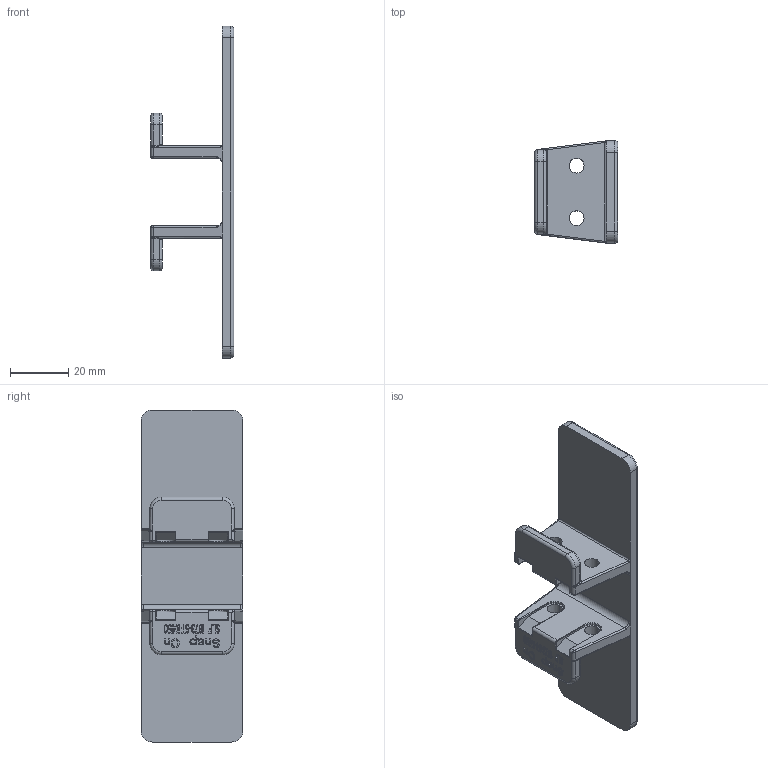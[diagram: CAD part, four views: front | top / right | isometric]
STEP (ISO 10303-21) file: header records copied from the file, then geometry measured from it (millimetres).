
FILE_DESCRIPTION((''),'2;1');
FILE_NAME('P1009','2015-12-16T',('bhe'),(''),'CREO PARAMETRIC BY PTC INC, 2015290','CREO PARAMETRIC BY PTC INC, 2015290','');
FILE_SCHEMA(('CONFIG_CONTROL_DESIGN'));
Length unit declared in the file: millimetre
Products named in the file (1): P1009
Bounding box: 28.78 x 35.1 x 114.25 mm (x, y, z)
Volume: 24400.4 mm3; surface area: 13935.9 mm2
Topology: 1 solids, 1 shells, 847 faces, 2341 edges, 1524 vertices
Faces by surface type: plane 697, cylinder 84, bspline 38, torus 28
Entity records: 28461 total; most frequent: CARTESIAN_POINT 7000, ORIENTED_EDGE 4682, DIRECTION 4047, EDGE_CURVE 2341, VECTOR 2069, LINE 2069, VERTEX_POINT 1524, AXIS2_PLACEMENT_3D 989
